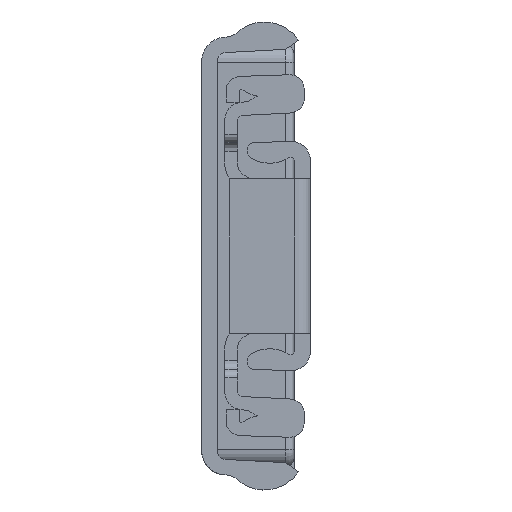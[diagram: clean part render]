
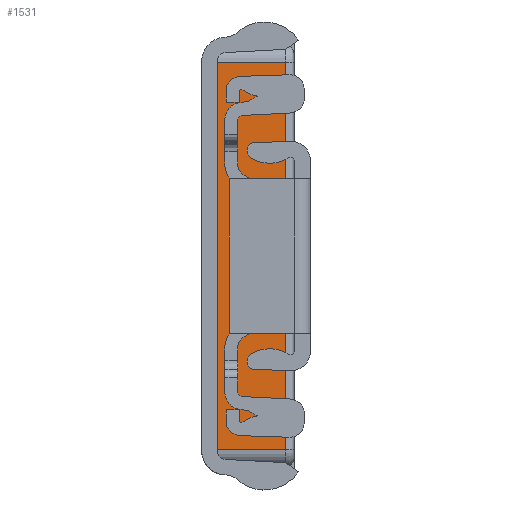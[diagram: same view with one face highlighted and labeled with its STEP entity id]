
A CAD part, front view. The second image highlights one B-rep face of the part: STEP entity #1531.
In plain terms, the highlighted planar face has unit normal (0, -1, 0).
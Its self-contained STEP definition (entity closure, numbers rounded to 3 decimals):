
#1531 = ADVANCED_FACE( 'NONE', ( #3102 ), #3103, .T. );
#3102 = FACE_OUTER_BOUND( '', #4665, .T. );
#3103 = PLANE( '', #4666 );
#4665 = EDGE_LOOP( '', ( #9284, #9285, #9286, #9287 ) );
#4666 = AXIS2_PLACEMENT_3D( '', #9288, #9289, #9290 );
#9284 = ORIENTED_EDGE( '', *, *, #11368, .F. );
#9285 = ORIENTED_EDGE( '', *, *, #10492, .T. );
#9286 = ORIENTED_EDGE( '', *, *, #10348, .T. );
#9287 = ORIENTED_EDGE( '', *, *, #10631, .T. );
#9288 = CARTESIAN_POINT( '', ( -4.959, -98.8, 8.082 ) );
#9289 = DIRECTION( '', ( 0., -1., 0. ) );
#9290 = DIRECTION( '', ( 0., 0., -1. ) );
#10348 = EDGE_CURVE( '', #12745, #12828, #12829, .T. );
#10492 = EDGE_CURVE( '', #13049, #12745, #13052, .T. );
#10631 = EDGE_CURVE( '', #12828, #13249, #13252, .F. );
#11368 = EDGE_CURVE( '', #13049, #13249, #14196, .T. );
#12745 = VERTEX_POINT( '', #16056 );
#12828 = VERTEX_POINT( '', #16167 );
#12829 = LINE( '', #16168, #16169 );
#13049 = VERTEX_POINT( '', #16466 );
#13052 = LINE( '', #16470, #16471 );
#13249 = VERTEX_POINT( '', #16751 );
#13252 = LINE( '', #16754, #16755 );
#14196 = LINE( '', #18076, #18077 );
#16056 = CARTESIAN_POINT( '', ( 22.64, -98.8, 9.2 ) );
#16167 = CARTESIAN_POINT( '', ( -22.64, -98.8, 9.2 ) );
#16168 = CARTESIAN_POINT( '', ( -4.959, -98.8, 9.2 ) );
#16169 = VECTOR( '', #19264, 1000. );
#16466 = CARTESIAN_POINT( '', ( 22.64, -98.8, 1.2 ) );
#16470 = CARTESIAN_POINT( '', ( 22.64, -98.8, 8.082 ) );
#16471 = VECTOR( '', #19460, 1000. );
#16751 = CARTESIAN_POINT( '', ( -22.64, -98.8, 1.2 ) );
#16754 = CARTESIAN_POINT( '', ( -22.64, -98.8, 8.082 ) );
#16755 = VECTOR( '', #19619, 1000. );
#18076 = CARTESIAN_POINT( '', ( 16.4, -98.8, 1.2 ) );
#18077 = VECTOR( '', #20435, 1000. );
#19264 = DIRECTION( '', ( -1., 0., 0. ) );
#19460 = DIRECTION( '', ( 0., 0., 1. ) );
#19619 = DIRECTION( '', ( 0., 0., 1. ) );
#20435 = DIRECTION( '', ( -1., 0., 0. ) );
